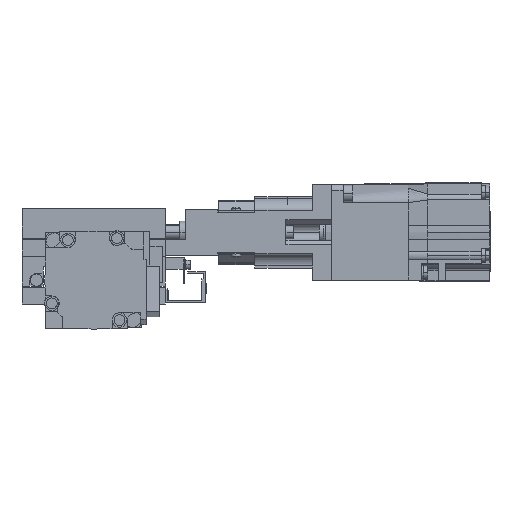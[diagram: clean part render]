
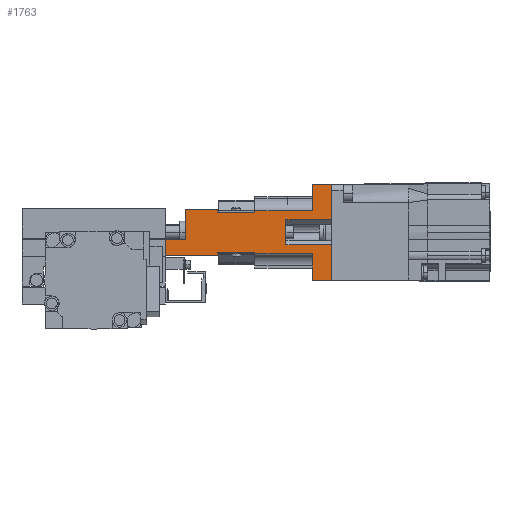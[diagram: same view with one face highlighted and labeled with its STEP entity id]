
A CAD part, left-side view. The second image highlights one B-rep face of the part: STEP entity #1763.
In plain terms, the highlighted planar face has unit normal (-1, 0, 0).
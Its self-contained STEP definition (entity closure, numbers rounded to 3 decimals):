
#1763=ADVANCED_FACE('',(#4458),#4459,.F.);
#4458=FACE_OUTER_BOUND('',#7553,.T.);
#4459=PLANE('',#7554);
#7553=EDGE_LOOP('',(#17455,#17456,#17457,#17458,#17459,#17460,#17461,#17462,#17463,#17464,#17465,#17466,#17467,#17468,#17469,#17470,#17471,#17472,#17473,#17474,#17475,#17476));
#7554=AXIS2_PLACEMENT_3D('',#17477,#17478,#17479);
#17455=ORIENTED_EDGE('',*,*,#22075,.F.);
#17456=ORIENTED_EDGE('',*,*,#22168,.F.);
#17457=ORIENTED_EDGE('',*,*,#21877,.T.);
#17458=ORIENTED_EDGE('',*,*,#22146,.T.);
#17459=ORIENTED_EDGE('',*,*,#22121,.T.);
#17460=ORIENTED_EDGE('',*,*,#21919,.T.);
#17461=ORIENTED_EDGE('',*,*,#22091,.F.);
#17462=ORIENTED_EDGE('',*,*,#22163,.F.);
#17463=ORIENTED_EDGE('',*,*,#22004,.T.);
#17464=ORIENTED_EDGE('',*,*,#21943,.T.);
#17465=ORIENTED_EDGE('',*,*,#21872,.F.);
#17466=ORIENTED_EDGE('',*,*,#22105,.T.);
#17467=ORIENTED_EDGE('',*,*,#22038,.F.);
#17468=ORIENTED_EDGE('',*,*,#22160,.F.);
#17469=ORIENTED_EDGE('',*,*,#22140,.F.);
#17470=ORIENTED_EDGE('',*,*,#22135,.T.);
#17471=ORIENTED_EDGE('',*,*,#22045,.F.);
#17472=ORIENTED_EDGE('',*,*,#21859,.T.);
#17473=ORIENTED_EDGE('',*,*,#22169,.F.);
#17474=ORIENTED_EDGE('',*,*,#22170,.F.);
#17475=ORIENTED_EDGE('',*,*,#22171,.T.);
#17476=ORIENTED_EDGE('',*,*,#21979,.F.);
#17477=CARTESIAN_POINT('',(-20.,-67.5,39.5));
#17478=DIRECTION('',(1.0,0.,0.));
#17479=DIRECTION('',(0.,0.,-1.0));
#21859=EDGE_CURVE('',#27076,#27077,#27078,.T.);
#21872=EDGE_CURVE('',#27101,#27097,#27103,.T.);
#21877=EDGE_CURVE('',#27112,#27110,#27113,.T.);
#21919=EDGE_CURVE('',#27184,#27182,#27185,.T.);
#21943=EDGE_CURVE('',#27227,#27097,#27228,.T.);
#21979=EDGE_CURVE('',#27288,#27290,#27291,.T.);
#22004=EDGE_CURVE('',#27325,#27227,#27329,.T.);
#22038=EDGE_CURVE('',#27381,#27384,#27385,.T.);
#22045=EDGE_CURVE('',#27076,#27394,#27396,.T.);
#22075=EDGE_CURVE('',#27442,#27288,#27444,.T.);
#22091=EDGE_CURVE('',#27464,#27182,#27466,.T.);
#22105=EDGE_CURVE('',#27101,#27384,#27482,.T.);
#22121=EDGE_CURVE('',#27502,#27184,#27503,.T.);
#22135=EDGE_CURVE('',#27518,#27394,#27519,.T.);
#22140=EDGE_CURVE('',#27518,#27526,#27527,.T.);
#22146=EDGE_CURVE('',#27110,#27502,#27534,.T.);
#22160=EDGE_CURVE('',#27526,#27381,#27553,.T.);
#22163=EDGE_CURVE('',#27325,#27464,#27556,.T.);
#22168=EDGE_CURVE('',#27112,#27442,#27561,.T.);
#22169=EDGE_CURVE('',#27562,#27077,#27563,.T.);
#22170=EDGE_CURVE('',#27564,#27562,#27565,.T.);
#22171=EDGE_CURVE('',#27564,#27290,#27566,.T.);
#27076=VERTEX_POINT('',#34729);
#27077=VERTEX_POINT('',#34730);
#27078=LINE('',#34731,#34732);
#27097=VERTEX_POINT('',#34758);
#27101=VERTEX_POINT('',#34764);
#27103=LINE('',#34767,#34768);
#27110=VERTEX_POINT('',#34778);
#27112=VERTEX_POINT('',#34781);
#27113=LINE('',#34782,#34783);
#27182=VERTEX_POINT('',#34882);
#27184=VERTEX_POINT('',#34885);
#27185=LINE('',#34886,#34887);
#27227=VERTEX_POINT('',#34946);
#27228=LINE('',#34947,#34948);
#27288=VERTEX_POINT('',#35035);
#27290=VERTEX_POINT('',#35038);
#27291=LINE('',#35039,#35040);
#27325=VERTEX_POINT('',#35087);
#27329=LINE('',#35093,#35094);
#27381=VERTEX_POINT('',#35170);
#27384=VERTEX_POINT('',#35174);
#27385=LINE('',#35175,#35176);
#27394=VERTEX_POINT('',#35190);
#27396=LINE('',#35193,#35194);
#27442=VERTEX_POINT('',#35264);
#27444=LINE('',#35267,#35268);
#27464=VERTEX_POINT('',#35300);
#27466=LINE('',#35303,#35304);
#27482=LINE('',#35331,#35332);
#27502=VERTEX_POINT('',#35362);
#27503=LINE('',#35363,#35364);
#27518=VERTEX_POINT('',#35387);
#27519=LINE('',#35388,#35389);
#27526=VERTEX_POINT('',#35400);
#27527=LINE('',#35401,#35402);
#27534=LINE('',#35413,#35414);
#27553=LINE('',#35444,#35445);
#27556=LINE('',#35450,#35451);
#27561=LINE('',#35457,#35458);
#27562=VERTEX_POINT('',#35459);
#27563=LINE('',#35460,#35461);
#27564=VERTEX_POINT('',#35462);
#27565=LINE('',#35463,#35464);
#27566=LINE('',#35465,#35466);
#34729=CARTESIAN_POINT('',(-20.,-91.5,21.));
#34730=CARTESIAN_POINT('',(-20.,-91.5,10.));
#34731=CARTESIAN_POINT('',(-20.,-91.5,50.0));
#34732=VECTOR('',#41127,1000.0);
#34758=CARTESIAN_POINT('',(-20.,-38.5,27.));
#34764=CARTESIAN_POINT('',(-20.,-30.,27.));
#34767=CARTESIAN_POINT('',(-20.,-30.,27.));
#34768=VECTOR('',#41144,1000.0);
#34778=CARTESIAN_POINT('',(-20.,-91.5,50.0));
#34781=CARTESIAN_POINT('',(-20.,-99.5,50.0));
#34782=CARTESIAN_POINT('',(-20.,-99.5,50.0));
#34783=VECTOR('',#41149,1000.0);
#34882=CARTESIAN_POINT('',(-20.,-67.5,38.5));
#34885=CARTESIAN_POINT('',(-20.,-67.5,39.0));
#34886=CARTESIAN_POINT('',(-20.,-67.5,39.0));
#34887=VECTOR('',#41211,1000.0);
#34946=CARTESIAN_POINT('',(-20.,-38.5,39.5));
#34947=CARTESIAN_POINT('',(-20.,-38.5,39.5));
#34948=VECTOR('',#41247,1000.0);
#35035=CARTESIAN_POINT('',(-20.,-80.5,35.25));
#35038=CARTESIAN_POINT('',(-20.,-80.5,24.75));
#35039=CARTESIAN_POINT('',(-20.,-80.5,35.25));
#35040=VECTOR('',#41297,1000.0);
#35087=CARTESIAN_POINT('',(-20.,-52.,39.5));
#35093=CARTESIAN_POINT('',(-20.,-67.5,39.5));
#35094=VECTOR('',#41340,1000.0);
#35170=CARTESIAN_POINT('',(-20.,-52.,20.5));
#35174=CARTESIAN_POINT('',(-20.,-30.,20.5));
#35175=CARTESIAN_POINT('',(-20.,-67.5,20.5));
#35176=VECTOR('',#41390,1000.0);
#35190=CARTESIAN_POINT('',(-20.,-67.5,21.));
#35193=CARTESIAN_POINT('',(-20.,-91.5,21.));
#35194=VECTOR('',#41397,1000.0);
#35264=CARTESIAN_POINT('',(-20.,-99.5,35.25));
#35267=CARTESIAN_POINT('',(-20.,-99.5,35.25));
#35268=VECTOR('',#41435,1000.0);
#35300=CARTESIAN_POINT('',(-20.,-52.,38.5));
#35303=CARTESIAN_POINT('',(-20.,-52.,38.5));
#35304=VECTOR('',#41455,1000.0);
#35331=CARTESIAN_POINT('',(-20.,-30.,27.));
#35332=VECTOR('',#41473,1000.0);
#35362=CARTESIAN_POINT('',(-20.,-91.5,39.0));
#35363=CARTESIAN_POINT('',(-20.,-91.5,39.0));
#35364=VECTOR('',#41499,1000.0);
#35387=CARTESIAN_POINT('',(-20.,-67.5,21.5));
#35388=CARTESIAN_POINT('',(-20.,-67.5,39.0));
#35389=VECTOR('',#41523,1000.0);
#35400=CARTESIAN_POINT('',(-20.,-52.,21.5));
#35401=CARTESIAN_POINT('',(-20.,-67.5,21.5));
#35402=VECTOR('',#41528,1000.0);
#35413=CARTESIAN_POINT('',(-20.,-91.5,50.0));
#35414=VECTOR('',#41536,1000.0);
#35444=CARTESIAN_POINT('',(-20.,-52.,21.5));
#35445=VECTOR('',#41554,1000.0);
#35450=CARTESIAN_POINT('',(-20.,-52.,39.5));
#35451=VECTOR('',#41557,1000.0);
#35457=CARTESIAN_POINT('',(-20.,-99.5,50.0));
#35458=VECTOR('',#41568,1000.0);
#35459=CARTESIAN_POINT('',(-20.,-99.5,10.));
#35460=CARTESIAN_POINT('',(-20.,-99.5,10.));
#35461=VECTOR('',#41569,1000.0);
#35462=CARTESIAN_POINT('',(-20.,-99.5,24.75));
#35463=CARTESIAN_POINT('',(-20.,-99.5,50.0));
#35464=VECTOR('',#41570,1000.0);
#35465=CARTESIAN_POINT('',(-20.,-99.5,24.75));
#35466=VECTOR('',#41571,1000.0);
#41127=DIRECTION('',(0.,0.,-1.0));
#41144=DIRECTION('',(0.,-1.0,0.0));
#41149=DIRECTION('',(0.,1.0,0.0));
#41211=DIRECTION('',(0.,0.,-1.0));
#41247=DIRECTION('',(0.,0.,-1.0));
#41297=DIRECTION('',(0.,0.,-1.0));
#41340=DIRECTION('',(0.,1.0,0.0));
#41390=DIRECTION('',(0.,1.0,0.0));
#41397=DIRECTION('',(0.,1.0,0.0));
#41435=DIRECTION('',(0.,1.0,0.0));
#41455=DIRECTION('',(0.,-1.0,0.0));
#41473=DIRECTION('',(0.,0.,-1.0));
#41499=DIRECTION('',(0.,1.0,0.0));
#41523=DIRECTION('',(0.,0.,-1.0));
#41528=DIRECTION('',(0.,1.0,0.0));
#41536=DIRECTION('',(0.,0.,-1.0));
#41554=DIRECTION('',(0.,0.,-1.0));
#41557=DIRECTION('',(0.,0.,-1.0));
#41568=DIRECTION('',(0.,0.,-1.0));
#41569=DIRECTION('',(0.,1.0,0.0));
#41570=DIRECTION('',(0.,0.,-1.0));
#41571=DIRECTION('',(0.,1.0,0.0));
